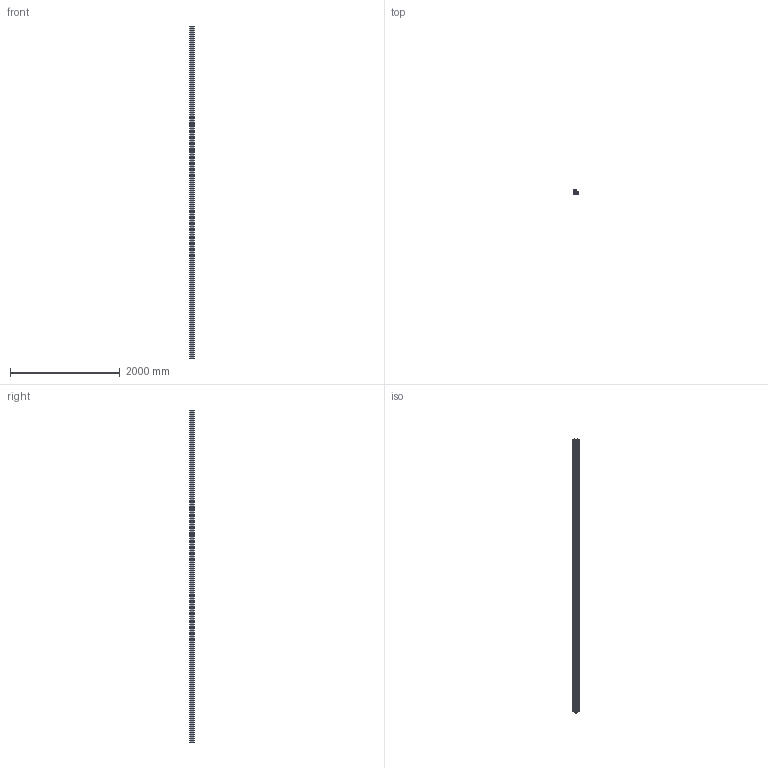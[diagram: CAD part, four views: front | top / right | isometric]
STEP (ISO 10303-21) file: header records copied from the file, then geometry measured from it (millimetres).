
FILE_DESCRIPTION (( 'STEP AP203' ), '1' );
FILE_NAME ('20107400_Profil 45x90x90L Nut 10.step', '2021-06-18T12:27:37', ( '' ), ( '' ), 'SwSTEP 2.0', 'SolidWorks 2021', '' );
FILE_SCHEMA (( 'CONFIG_CONTROL_DESIGN' ));
Length unit declared in the file: millimetre
Products named in the file (1): 20107400_Profil 45x90x90L Nut 10
Bounding box: 90 x 90 x 6060 mm (x, y, z)
Volume: 12733588.8 mm3; surface area: 8060745.9 mm2
Topology: 1 solids, 1 shells, 604 faces, 1806 edges, 1204 vertices
Faces by surface type: cylinder 368, plane 236
Entity records: 20743 total; most frequent: DIRECTION 3752, CARTESIAN_POINT 3615, ORIENTED_EDGE 3612, EDGE_CURVE 1806, AXIS2_PLACEMENT_3D 1341, VERTEX_POINT 1204, LINE 1070, VECTOR 1070
